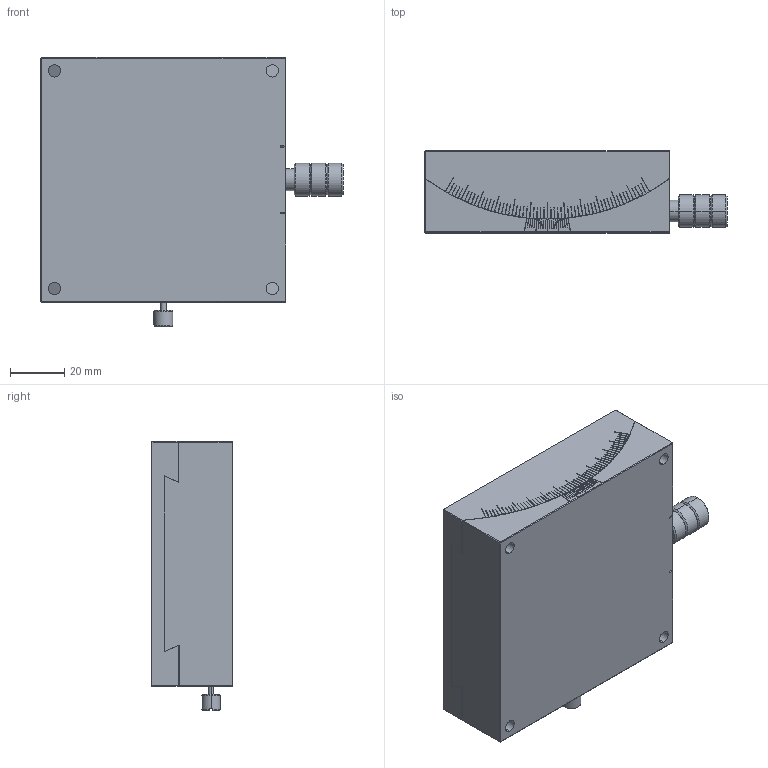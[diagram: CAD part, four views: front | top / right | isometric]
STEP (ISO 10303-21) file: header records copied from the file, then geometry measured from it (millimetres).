
FILE_DESCRIPTION (( 'STEP AP214' ), '1' );
FILE_NAME ('PT-SD316蚾饜极.STEP', '2025-01-03T09:24:33', ( '' ), ( '' ), 'SwSTEP 2.0', 'SolidWorks 2022', '' );
FILE_SCHEMA (( 'AUTOMOTIVE_DESIGN' ));
Length unit declared in the file: millimetre
Products named in the file (3): PT-SD316 賑雄す怢; PT-SD316蚾饜极; PT-SD316 菁釱
Assembly tree (2 placements, depth 2):
  PT-SD316蚾饜极
    PT-SD316 菁釱
    PT-SD316 賑雄す怢
Bounding box: 111 x 30 x 99 mm (x, y, z)
Volume: 234972.5 mm3; surface area: 52054.1 mm2
Topology: 2 solids, 2 shells, 508 faces, 1407 edges, 903 vertices
Faces by surface type: plane 392, cone 58, cylinder 58
Entity records: 16579 total; most frequent: CARTESIAN_POINT 3207, ORIENTED_EDGE 2778, DIRECTION 2691, EDGE_CURVE 1389, VECTOR 1045, LINE 1045, VERTEX_POINT 903, AXIS2_PLACEMENT_3D 823
